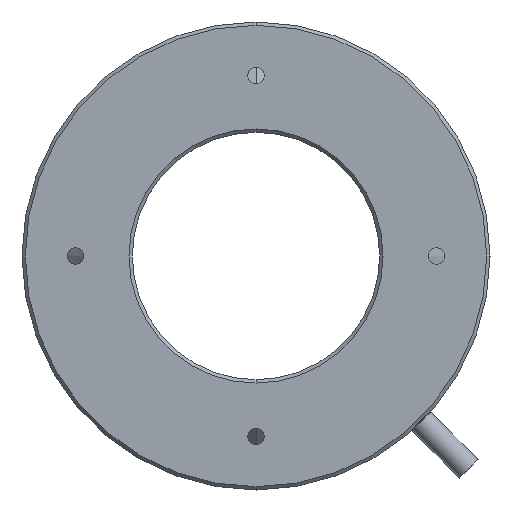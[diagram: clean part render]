
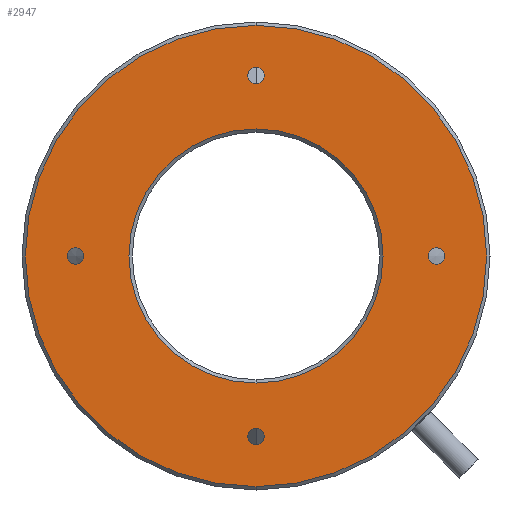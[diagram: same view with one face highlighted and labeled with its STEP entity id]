
A CAD part, front view. The second image highlights one B-rep face of the part: STEP entity #2947.
In plain terms, the highlighted planar face has unit normal (0, -1, 0).
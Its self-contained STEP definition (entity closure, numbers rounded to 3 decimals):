
#7 = CARTESIAN_POINT ( 'NONE',  ( 0., 0., 0. ) ) ;
#43 = DIRECTION ( 'NONE',  ( 0., -1., 0. ) ) ;
#46 = CARTESIAN_POINT ( 'NONE',  ( 0., 0., 0. ) ) ;
#71 = CIRCLE ( 'NONE', #1602, 1.25 ) ;
#81 = FACE_OUTER_BOUND ( 'NONE', #2579, .T. ) ;
#152 = CIRCLE ( 'NONE', #1647, 1.25 ) ;
#188 = DIRECTION ( 'NONE',  ( 0., 0., -1. ) ) ;
#191 = CIRCLE ( 'NONE', #1380, 1.25 ) ;
#336 = EDGE_CURVE ( 'NONE', #3002, #1009, #1427, .T. ) ;
#348 = CARTESIAN_POINT ( 'NONE',  ( -27., 0., 0. ) ) ;
#364 = EDGE_CURVE ( 'NONE', #2267, #1365, #1395, .T. ) ;
#397 = DIRECTION ( 'NONE',  ( 0., -1., 0. ) ) ;
#406 = EDGE_CURVE ( 'NONE', #910, #2789, #1386, .T. ) ;
#414 = DIRECTION ( 'NONE',  ( -1., 0., 0. ) ) ;
#415 = CARTESIAN_POINT ( 'NONE',  ( 1.25, 0., 27. ) ) ;
#468 = CARTESIAN_POINT ( 'NONE',  ( 0., 0., 34.5 ) ) ;
#512 = DIRECTION ( 'NONE',  ( 0., 0., -1. ) ) ;
#562 = CARTESIAN_POINT ( 'NONE',  ( 0., 0., 0. ) ) ;
#592 = CARTESIAN_POINT ( 'NONE',  ( 0., 0., 0. ) ) ;
#598 = CARTESIAN_POINT ( 'NONE',  ( -1.25, 0., -27. ) ) ;
#615 = DIRECTION ( 'NONE',  ( 0., 1., 0. ) ) ;
#661 = CARTESIAN_POINT ( 'NONE',  ( 27., 0., 0. ) ) ;
#766 = DIRECTION ( 'NONE',  ( 0., -1., 0. ) ) ;
#822 = DIRECTION ( 'NONE',  ( 0., 0., -1. ) ) ;
#838 = EDGE_LOOP ( 'NONE', ( #1499, #1524 ) ) ;
#850 = DIRECTION ( 'NONE',  ( 1., 0., 0. ) ) ;
#864 = DIRECTION ( 'NONE',  ( 0., 0., 1. ) ) ;
#910 = VERTEX_POINT ( 'NONE', #1665 ) ;
#939 = EDGE_LOOP ( 'NONE', ( #1332, #1398 ) ) ;
#982 = DIRECTION ( 'NONE',  ( 0., -1., 0. ) ) ;
#1009 = VERTEX_POINT ( 'NONE', #2038 ) ;
#1032 = CARTESIAN_POINT ( 'NONE',  ( -27., 0., -1.25 ) ) ;
#1086 = CARTESIAN_POINT ( 'NONE',  ( 1.25, 0., -27. ) ) ;
#1109 = CARTESIAN_POINT ( 'NONE',  ( 27., 0., -1.25 ) ) ;
#1115 = DIRECTION ( 'NONE',  ( 0., -1., 0. ) ) ;
#1130 = DIRECTION ( 'NONE',  ( 0., -1., 0. ) ) ;
#1166 = DIRECTION ( 'NONE',  ( 0., 0., -1. ) ) ;
#1177 = EDGE_LOOP ( 'NONE', ( #1727, #1722 ) ) ;
#1188 = VERTEX_POINT ( 'NONE', #1086 ) ;
#1205 = CIRCLE ( 'NONE', #1823, 1.25 ) ;
#1234 = CIRCLE ( 'NONE', #1752, 1.25 ) ;
#1291 = CIRCLE ( 'NONE', #2321, 19. ) ;
#1332 = ORIENTED_EDGE ( 'NONE', *, *, #336, .F. ) ;
#1365 = VERTEX_POINT ( 'NONE', #2423 ) ;
#1380 = AXIS2_PLACEMENT_3D ( 'NONE', #1779, #1660, #2210 ) ;
#1386 = CIRCLE ( 'NONE', #1936, 19. ) ;
#1389 = FACE_BOUND ( 'NONE', #939, .T. ) ;
#1395 = CIRCLE ( 'NONE', #1695, 34.5 ) ;
#1398 = ORIENTED_EDGE ( 'NONE', *, *, #1845, .F. ) ;
#1414 = AXIS2_PLACEMENT_3D ( 'NONE', #2137, #1861, #1875 ) ;
#1417 = VERTEX_POINT ( 'NONE', #1032 ) ;
#1427 = CIRCLE ( 'NONE', #2096, 1.25 ) ;
#1434 = CARTESIAN_POINT ( 'NONE',  ( 0., 0., 19. ) ) ;
#1464 = CIRCLE ( 'NONE', #2287, 34.5 ) ;
#1472 = CARTESIAN_POINT ( 'NONE',  ( 27., 0., 1.25 ) ) ;
#1499 = ORIENTED_EDGE ( 'NONE', *, *, #1686, .F. ) ;
#1524 = ORIENTED_EDGE ( 'NONE', *, *, #2381, .F. ) ;
#1544 = CARTESIAN_POINT ( 'NONE',  ( -27., 0., 1.25 ) ) ;
#1565 = FACE_BOUND ( 'NONE', #838, .T. ) ;
#1602 = AXIS2_PLACEMENT_3D ( 'NONE', #2549, #2555, #850 ) ;
#1638 = EDGE_CURVE ( 'NONE', #2872, #1188, #191, .T. ) ;
#1647 = AXIS2_PLACEMENT_3D ( 'NONE', #1905, #1130, #414 ) ;
#1660 = DIRECTION ( 'NONE',  ( 0., -1., 0. ) ) ;
#1665 = CARTESIAN_POINT ( 'NONE',  ( 0., 0., -19. ) ) ;
#1686 = EDGE_CURVE ( 'NONE', #2763, #1417, #2924, .T. ) ;
#1695 = AXIS2_PLACEMENT_3D ( 'NONE', #2239, #2303, #2375 ) ;
#1722 = ORIENTED_EDGE ( 'NONE', *, *, #2966, .F. ) ;
#1727 = ORIENTED_EDGE ( 'NONE', *, *, #406, .F. ) ;
#1752 = AXIS2_PLACEMENT_3D ( 'NONE', #2950, #1115, #1166 ) ;
#1760 = ORIENTED_EDGE ( 'NONE', *, *, #1995, .F. ) ;
#1776 = DIRECTION ( 'NONE',  ( 0., 0., -1. ) ) ;
#1779 = CARTESIAN_POINT ( 'NONE',  ( 0., 0., -27. ) ) ;
#1808 = ORIENTED_EDGE ( 'NONE', *, *, #1638, .F. ) ;
#1823 = AXIS2_PLACEMENT_3D ( 'NONE', #661, #2072, #188 ) ;
#1829 = ORIENTED_EDGE ( 'NONE', *, *, #364, .T. ) ;
#1845 = EDGE_CURVE ( 'NONE', #1009, #3002, #71, .T. ) ;
#1846 = ORIENTED_EDGE ( 'NONE', *, *, #2171, .F. ) ;
#1861 = DIRECTION ( 'NONE',  ( 0., -1., 0. ) ) ;
#1875 = DIRECTION ( 'NONE',  ( 0., 0., 1. ) ) ;
#1888 = EDGE_CURVE ( 'NONE', #1188, #2872, #152, .T. ) ;
#1905 = CARTESIAN_POINT ( 'NONE',  ( 0., 0., -27. ) ) ;
#1932 = AXIS2_PLACEMENT_3D ( 'NONE', #348, #2472, #2506 ) ;
#1936 = AXIS2_PLACEMENT_3D ( 'NONE', #7, #766, #1776 ) ;
#1995 = EDGE_CURVE ( 'NONE', #2717, #2325, #1234, .T. ) ;
#2038 = CARTESIAN_POINT ( 'NONE',  ( -1.25, 0., 27. ) ) ;
#2072 = DIRECTION ( 'NONE',  ( 0., -1., 0. ) ) ;
#2096 = AXIS2_PLACEMENT_3D ( 'NONE', #2637, #43, #2214 ) ;
#2137 = CARTESIAN_POINT ( 'NONE',  ( -27., 0., 0. ) ) ;
#2171 = EDGE_CURVE ( 'NONE', #2325, #2717, #1205, .T. ) ;
#2210 = DIRECTION ( 'NONE',  ( -1., 0., 0. ) ) ;
#2214 = DIRECTION ( 'NONE',  ( 1., 0., 0. ) ) ;
#2216 = FACE_BOUND ( 'NONE', #1177, .T. ) ;
#2239 = CARTESIAN_POINT ( 'NONE',  ( 0., 0., 0. ) ) ;
#2267 = VERTEX_POINT ( 'NONE', #468 ) ;
#2279 = ORIENTED_EDGE ( 'NONE', *, *, #2945, .T. ) ;
#2287 = AXIS2_PLACEMENT_3D ( 'NONE', #562, #397, #512 ) ;
#2303 = DIRECTION ( 'NONE',  ( 0., -1., 0. ) ) ;
#2321 = AXIS2_PLACEMENT_3D ( 'NONE', #46, #982, #822 ) ;
#2325 = VERTEX_POINT ( 'NONE', #1109 ) ;
#2326 = AXIS2_PLACEMENT_3D ( 'NONE', #592, #615, #864 ) ;
#2375 = DIRECTION ( 'NONE',  ( 0., 0., -1. ) ) ;
#2381 = EDGE_CURVE ( 'NONE', #1417, #2763, #2820, .T. ) ;
#2423 = CARTESIAN_POINT ( 'NONE',  ( 0., 0., -34.5 ) ) ;
#2446 = FACE_BOUND ( 'NONE', #2635, .T. ) ;
#2472 = DIRECTION ( 'NONE',  ( 0., -1., 0. ) ) ;
#2484 = EDGE_LOOP ( 'NONE', ( #1808, #2677 ) ) ;
#2506 = DIRECTION ( 'NONE',  ( 0., 0., 1. ) ) ;
#2520 = PLANE ( 'NONE',  #2326 ) ;
#2549 = CARTESIAN_POINT ( 'NONE',  ( 0., 0., 27. ) ) ;
#2555 = DIRECTION ( 'NONE',  ( 0., -1., 0. ) ) ;
#2579 = EDGE_LOOP ( 'NONE', ( #1829, #2279 ) ) ;
#2635 = EDGE_LOOP ( 'NONE', ( #1846, #1760 ) ) ;
#2637 = CARTESIAN_POINT ( 'NONE',  ( 0., 0., 27. ) ) ;
#2677 = ORIENTED_EDGE ( 'NONE', *, *, #1888, .F. ) ;
#2715 = FACE_BOUND ( 'NONE', #2484, .T. ) ;
#2717 = VERTEX_POINT ( 'NONE', #1472 ) ;
#2763 = VERTEX_POINT ( 'NONE', #1544 ) ;
#2789 = VERTEX_POINT ( 'NONE', #1434 ) ;
#2820 = CIRCLE ( 'NONE', #1932, 1.25 ) ;
#2872 = VERTEX_POINT ( 'NONE', #598 ) ;
#2924 = CIRCLE ( 'NONE', #1414, 1.25 ) ;
#2945 = EDGE_CURVE ( 'NONE', #1365, #2267, #1464, .T. ) ;
#2947 = ADVANCED_FACE ( 'NONE', ( #1565, #2715, #1389, #2446, #2216, #81 ), #2520, .F. ) ;
#2950 = CARTESIAN_POINT ( 'NONE',  ( 27., 0., 0. ) ) ;
#2966 = EDGE_CURVE ( 'NONE', #2789, #910, #1291, .T. ) ;
#3002 = VERTEX_POINT ( 'NONE', #415 ) ;
